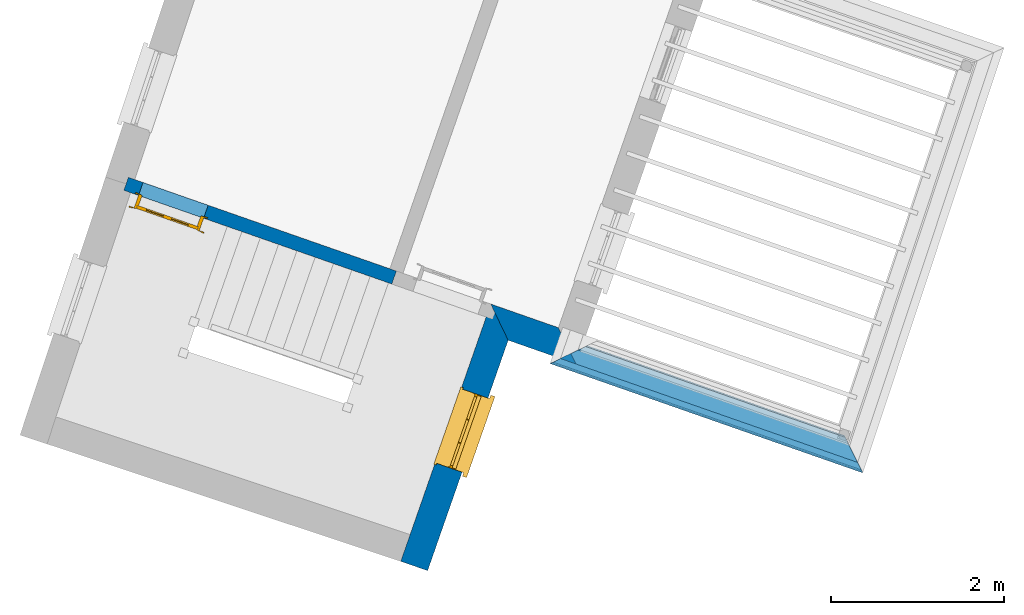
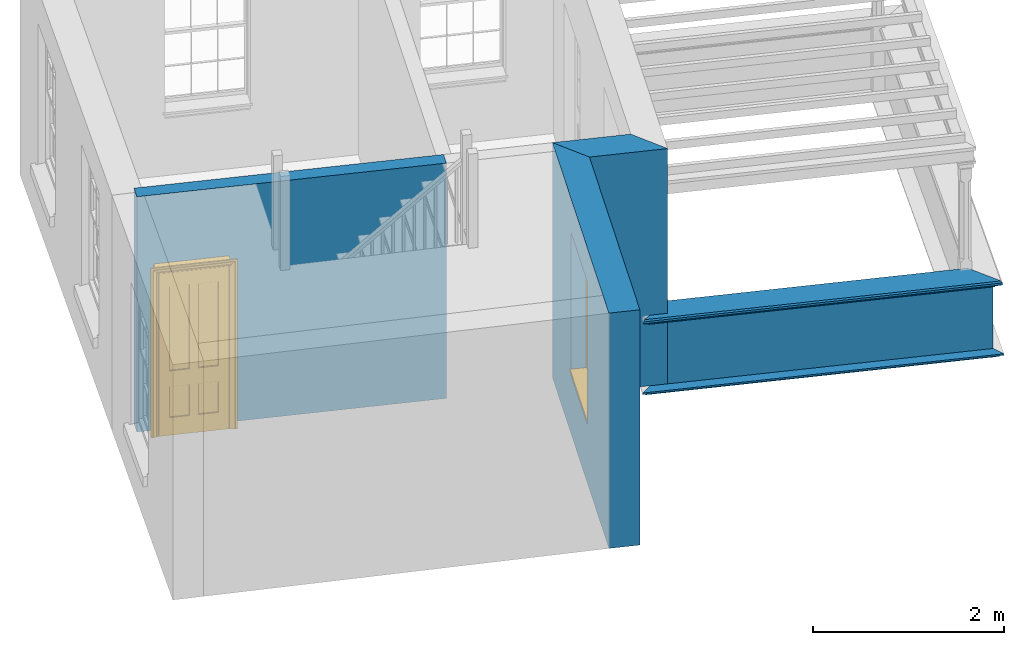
# One storey, part 2 of 6: 6 walls, 1 door, 1 window, 2 openings.
"""IFC4 building model written with IfcOpenShell, lengths in metres."""

from ifc_helpers import new_model, si_unit, frame, origin, origin_with_axes, place, context, subcontext, project, spatial, polyline, outline, extrude, clip, halfspace, faceted_brep, source, transform, mapped, material, layer, layer_set, layer_usage, material_profile, profile_set, profile_usage, type_object, type_shapes, element, fill, save


model = new_model("IFC4")

# Units and contexts
model_context = context("Model", 3, world=origin_with_axes())
body_context = subcontext(model_context, "Body", "Model", "MODEL_VIEW")
ifc_project = project(units=[si_unit("PLANEANGLEUNIT", "RADIAN"), si_unit("MASSUNIT", "GRAM", prefix="KILO"), si_unit("FORCEUNIT", "NEWTON", prefix="KILO"), si_unit("LENGTHUNIT", "METRE"), si_unit("AREAUNIT", "SQUARE_METRE"), si_unit("VOLUMEUNIT", "CUBIC_METRE")], contexts=[model_context, model_context])

# Sites, building, storey
site_1_placement = place(None, origin_with_axes())
site_1 = spatial("IfcSite", under=ifc_project, at=site_1_placement, Name="Tamar")
site_2_placement = place(site_1_placement, origin_with_axes())
site_2 = spatial("IfcSite", under=site_1, at=site_2_placement, Name="Site plot-15", CompositionType="ELEMENT")
building_placement = place(None, origin_with_axes())
building = spatial("IfcBuilding", under=site_2, at=building_placement, Name="Building plot-15", CompositionType="ELEMENT")
storey_placement = place(None, frame((0.0, 0.0, 29.95), z_axis=(0.0, 0.0, 1.0), x_axis=(1.0, 0.0, 0.0)))
storey = spatial("IfcBuildingStorey", under=building, at=storey_placement, Name="plot-15 1", CompositionType="ELEMENT", Elevation=29.95)

# Wall, opening, window
ifc_material_1 = material(Name="Masonry")
ifc_layer_1 = layer(ifc_material_1, 0.33, ventilated=False)
ifc_layer_set_1 = layer_set([ifc_layer_1], Name="exterior_0.08_0.25")
ifc_layer_usage_1 = layer_usage(ifc_layer_set_1, "AXIS2", "POSITIVE", -0.25)
wall_type_1 = type_object("IfcWallType", Name="exterior_0.08_0.25", PredefinedType="SOLIDWALL", material=ifc_layer_set_1)
wall_1_placement = place(storey_placement, frame((260.575215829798, 302.577917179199, 0.0), z_axis=(0.0, 0.0, 1.0), x_axis=(0.330001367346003, 0.943980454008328, 0.0)))
wall_1 = element("IfcWall", 1, at=wall_1_placement, inside=storey, type_object=wall_type_1, material=ifc_layer_usage_1, Name="exterior", context=body_context, shape_type="SweptSolid", body=[
    extrude(outline(polyline([(-0.250000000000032, 0.0800000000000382), (-0.250000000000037, -0.250000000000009), (2.58002127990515, -0.250000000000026), (2.91002127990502, 0.0800000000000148), (-0.250000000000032, 0.0800000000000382)])), origin_with_axes(), (0.0, 0.0, 1.0), 3.0),
])
opening_1_placement = place(wall_1_placement, frame((0.96001063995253, 0.0, 0.75)))
opening_1 = element("IfcOpeningElement", 2, at=opening_1_placement, cuts=wall_1, Name="My Opening", ObjectType="Opening", context=body_context, shape_type="SweptSolid", body=[
    extrude(outline(polyline([(0.0, -0.270000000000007), (0.909999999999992, -0.270000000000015), (0.909999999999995, 1.10000000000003), (2.88657986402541e-15, 1.10000000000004), (0.0, -0.270000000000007)])), origin_with_axes(), (0.0, 0.0, 1.0), 1.82),
])
window_type = type_object("IfcWindowType", Name="sash_big", PartitioningType="DOUBLE_PANEL_HORIZONTAL", PredefinedType="NOTDEFINED")
shared_shape_1 = source(origin(), body_context, "Body", "Brep", [
    faceted_brep([(0.033125, 0.145, 0.975209), (0.01, 0.145, 0.975209), (0.033125, 0.145, 1.376042), (0.876875, 0.145, 0.975209), (0.876875, 0.145, 1.376042), (0.9, 0.145, 0.975209), (0.876875, 0.145, 1.386042), (0.876875, 0.145, 1.786875), (0.9, 0.145, 1.81), (0.033125, 0.145, 1.786875), (0.033125, 0.145, 1.386042), (0.01, 0.145, 1.81), (0.876875, 0.115, 1.376042), (0.876875, 0.115, 0.975209), (0.9, 0.115, 0.937083), (0.033125, 0.115, 1.786875), (0.01, 0.115, 1.81), (0.033125, 0.115, 1.386042), (0.01, 0.115, 0.937083), (0.033125, 0.115, 0.975209), (0.033125, 0.115, 1.376042), (0.876875, 0.115, 1.786875), (0.876875, 0.115, 1.386042), (0.9, 0.115, 1.81), (0.033125, 0.145, 0.937083), (0.01, 0.145, 0.937083), (0.033125, 0.145, 0.53625), (0.876875, 0.145, 0.937083), (0.876875, 0.145, 0.53625), (0.9, 0.145, 0.937083), (0.876875, 0.145, 0.52625), (0.876875, 0.145, 0.125417), (0.9, 0.145, 0.077167), (0.033125, 0.145, 0.125417), (0.033125, 0.145, 0.52625), (0.01, 0.145, 0.077167), (-0.0425, 0.0, 0.01), (-0.0425, -0.05, 0.001667), (0.0, 0.0, 0.01), (0.9525, 0.0, 0.01), (0.91, 0.0, 0.01), (0.9525, -0.05, 0.001667), (-0.02, 0.33, 0.077167), (0.0, 0.33, 0.077167), (-0.02, 0.36, 0.077167), (0.0, 0.19, 0.077167), (0.01, 0.19, 0.077167), (0.91, 0.19, 0.077167), (0.91, 0.33, 0.077167), (0.9, 0.19, 0.077167), (0.93, 0.33, 0.077167), (0.93, 0.36, 0.077167), (0.01, 0.175, 0.975209), (0.9, 0.175, 0.975209), (0.876875, 0.175, 0.125417), (0.876875, 0.175, 0.52625), (0.9, 0.175, 0.077167), (0.876875, 0.175, 0.53625), (0.876875, 0.175, 0.937083), (0.033125, 0.175, 0.125417), (0.01, 0.175, 0.077167), (0.033125, 0.175, 0.52625), (0.033125, 0.175, 0.937083), (0.033125, 0.175, 0.53625), (-0.02, 0.33, 0.052167), (-0.02, 0.36, 0.052167), (0.93, 0.36, 0.052167), (0.93, 0.33, 0.052167), (0.91, 0.33, 0.052167), (0.0, 0.33, 0.052167), (0.91, 0.1, 0.026667), (0.0, 0.1, 0.026667), (-0.0425, -0.05, -0.123333), (0.9525, -0.05, -0.123333), (-0.0425, 0.0, -0.123333), (0.9525, 0.0, -0.123333), (0.01, 0.19, 1.81), (0.9, 0.19, 1.81), (0.0, 0.19, 1.82), (0.91, 0.19, 1.82), (0.01, 0.1, 0.077167), (0.9, 0.1, 0.077167), (0.592292, 0.145, 0.125417), (0.592292, 0.175, 0.125417), (0.317708, 0.175, 0.125417), (0.317708, 0.145, 0.125417), (0.592292, 0.145, 0.53625), (0.317708, 0.145, 0.53625), (0.317708, 0.145, 0.52625), (0.592292, 0.145, 0.52625), (0.592292, 0.175, 0.53625), (0.317708, 0.175, 0.53625), (0.592292, 0.115, 1.386042), (0.592292, 0.145, 1.386042), (0.317708, 0.145, 1.386042), (0.317708, 0.115, 1.386042), (0.317708, 0.115, 1.376042), (0.592292, 0.115, 1.376042), (0.317708, 0.145, 1.376042), (0.592292, 0.145, 1.376042), (0.602292, 0.115, 1.376042), (0.592292, 0.115, 0.975209), (0.602292, 0.115, 0.975209), (0.602292, 0.145, 0.975209), (0.592292, 0.145, 0.975209), (0.602292, 0.145, 1.376042), (0.602292, 0.175, 0.53625), (0.602292, 0.145, 0.53625), (0.317708, 0.175, 0.52625), (0.307708, 0.175, 0.125417), (0.307708, 0.175, 0.52625), (0.602292, 0.175, 0.52625), (0.602292, 0.175, 0.125417), (0.592292, 0.175, 0.52625), (0.307708, 0.175, 0.53625), (0.317708, 0.175, 0.937083), (0.307708, 0.175, 0.937083), (0.602292, 0.175, 0.937083), (0.592292, 0.175, 0.937083), (0.307708, 0.145, 0.52625), (0.307708, 0.145, 0.125417), (0.307708, 0.145, 0.53625), (0.307708, 0.145, 0.937083), (0.592292, 0.145, 0.937083), (0.317708, 0.145, 0.937083), (0.602292, 0.145, 0.937083), (0.602292, 0.145, 0.52625), (0.602292, 0.145, 0.125417), (0.307708, 0.115, 1.386042), (0.307708, 0.115, 1.376042), (0.307708, 0.115, 0.975209), (0.317708, 0.115, 0.975209), (0.317708, 0.115, 1.786875), (0.307708, 0.115, 1.786875), (0.602292, 0.115, 1.786875), (0.592292, 0.115, 1.786875), (0.602292, 0.115, 1.386042), (0.602292, 0.145, 1.386042), (0.307708, 0.145, 1.386042), (0.307708, 0.145, 1.786875), (0.317708, 0.145, 1.786875), (0.592292, 0.145, 1.786875), (0.602292, 0.145, 1.786875), (0.307708, 0.145, 1.376042), (0.317708, 0.145, 0.975209), (0.307708, 0.145, 0.975209), (0.91, 0.1, 1.82), (0.9, 0.1, 1.81), (0.01, 0.1, 1.81), (0.0, 0.1, 1.82), (0.91, 0.0, 0.0), (0.0, 0.0, 0.0), (0.91, 0.33, 0.0), (0.0, 0.33, 0.0)], [[[0, 1, 2]], [[3, 4, 5]], [[6, 7, 8]], [[9, 10, 11]], [[12, 13, 14]], [[15, 16, 17]], [[18, 19, 20]], [[21, 22, 23]], [[24, 25, 26]], [[27, 28, 29]], [[30, 31, 32]], [[33, 34, 35]], [[14, 27, 29]], [[25, 24, 18]], [[36, 37, 38]], [[39, 40, 41]], [[42, 43, 44]], [[45, 46, 43]], [[47, 48, 49]], [[50, 51, 48]], [[1, 0, 52]], [[5, 53, 3]], [[54, 55, 56]], [[57, 58, 53]], [[59, 60, 61]], [[62, 63, 52]], [[48, 43, 46, 49]], [[51, 44, 43, 48]], [[64, 42, 44, 65]], [[65, 44, 51, 66]], [[66, 51, 50, 67]], [[65, 66, 68, 69]], [[60, 56, 49, 46]], [[70, 71, 38, 40]], [[37, 41, 40, 38]], [[37, 72, 73, 41]], [[74, 75, 73, 72]], [[8, 11, 76, 77]], [[76, 78, 79, 77]], [[32, 35, 80, 81]], [[81, 80, 71, 70]], [[82, 83, 84, 85]], [[86, 87, 88, 89]], [[86, 90, 91, 87]], [[92, 93, 94, 95]], [[92, 95, 96, 97]], [[96, 98, 99, 97]], [[100, 97, 101, 102]], [[103, 104, 99, 105]], [[97, 99, 104, 101]], [[102, 103, 105, 100]], [[28, 57, 106, 107]], [[108, 84, 109, 110]], [[111, 112, 83, 113]], [[114, 110, 61, 63]], [[90, 113, 108, 91]], [[115, 91, 114, 116]], [[117, 106, 90, 118]], [[111, 106, 57, 55]], [[119, 110, 109, 120]], [[34, 61, 110, 119]], [[89, 113, 83, 82]], [[88, 108, 113, 89]], [[85, 84, 108, 88]], [[121, 114, 63, 26]], [[122, 116, 114, 121]], [[123, 118, 90, 86]], [[87, 91, 115, 124]], [[107, 106, 117, 125]], [[126, 111, 55, 30]], [[127, 112, 111, 126]], [[126, 30, 28, 107]], [[88, 119, 120, 85]], [[126, 89, 82, 127]], [[125, 123, 86, 107]], [[121, 26, 34, 119]], [[124, 122, 121, 87]], [[128, 17, 20, 129]], [[96, 129, 130, 131]], [[132, 133, 128, 95]], [[134, 135, 92, 136]], [[100, 12, 22, 136]], [[137, 6, 4, 105]], [[94, 138, 139, 140]], [[137, 93, 141, 142]], [[99, 98, 94, 93]], [[143, 2, 10, 138]], [[144, 145, 143, 98]], [[129, 143, 145, 130]], [[20, 2, 143, 129]], [[131, 144, 98, 96]], [[128, 138, 10, 17]], [[133, 139, 138, 128]], [[135, 141, 93, 92]], [[95, 94, 140, 132]], [[22, 6, 137, 136]], [[136, 137, 142, 134]], [[100, 105, 4, 12]], [[107, 86, 89, 126]], [[106, 111, 113, 90]], [[91, 108, 110, 114]], [[87, 121, 119, 88]], [[97, 100, 136, 92]], [[129, 96, 95, 128]], [[98, 143, 138, 94]], [[105, 99, 93, 137]], [[131, 101, 104, 144]], [[124, 115, 118, 123]], [[132, 140, 141, 135]], [[120, 109, 59, 33]], [[15, 9, 139, 133]], [[134, 142, 7, 21]], [[31, 54, 112, 127]], [[36, 74, 72, 37]], [[39, 41, 73, 75]], [[18, 14, 101, 131]], [[23, 16, 132, 135]], [[83, 56, 60, 84]], [[52, 53, 118, 115]], [[53, 52, 144, 104]], [[11, 8, 141, 140]], [[14, 18, 124, 123]], [[2, 1, 11, 10]], [[8, 5, 4, 6]], [[57, 53, 56, 55]], [[60, 52, 63, 61]], [[26, 25, 35, 34]], [[32, 29, 28, 30]], [[14, 23, 22, 12]], [[18, 20, 17, 16]], [[19, 0, 2, 20]], [[17, 10, 9, 15]], [[12, 4, 3, 13]], [[21, 7, 6, 22]], [[27, 58, 57, 28]], [[30, 55, 54, 31]], [[33, 59, 61, 34]], [[26, 63, 62, 24]], [[5, 8, 77, 53]], [[76, 11, 1, 52]], [[46, 45, 78, 76]], [[49, 77, 79, 47]], [[70, 146, 147, 81]], [[71, 80, 148, 149]], [[19, 130, 145, 0]], [[102, 13, 3, 103]], [[116, 122, 24, 62]], [[29, 32, 81, 14]], [[80, 35, 25, 18]], [[60, 46, 76, 52]], [[77, 49, 56, 53]], [[23, 14, 81, 147]], [[16, 148, 80, 18]], [[35, 85, 120]], [[120, 33, 35]], [[127, 82, 32]], [[32, 31, 127]], [[32, 82, 85, 35]], [[102, 101, 14]], [[14, 13, 102]], [[18, 131, 130]], [[130, 19, 18]], [[134, 21, 23]], [[23, 135, 134]], [[16, 15, 133]], [[133, 132, 16]], [[11, 140, 139]], [[139, 9, 11]], [[142, 141, 8]], [[8, 7, 142]], [[23, 147, 148, 16]], [[146, 149, 148, 147]], [[52, 115, 116]], [[116, 62, 52]], [[118, 53, 117]], [[58, 117, 53]], [[27, 125, 117, 58]], [[56, 83, 112]], [[112, 54, 56]], [[109, 84, 60]], [[60, 59, 109]], [[125, 27, 14]], [[14, 123, 125]], [[122, 124, 18]], [[18, 24, 122]], [[145, 144, 52]], [[52, 0, 145]], [[103, 3, 53]], [[53, 104, 103]], [[79, 78, 149, 146]], [[78, 45, 71, 149]], [[146, 70, 47, 79]], [[150, 75, 74, 151]], [[68, 66, 67]], [[48, 68, 67, 50]], [[69, 64, 65]], [[42, 64, 69, 43]], [[69, 68, 152, 153]], [[70, 68, 48, 47]], [[150, 152, 68, 70]], [[43, 69, 71, 45]], [[69, 153, 151, 71]], [[152, 150, 151, 153]], [[38, 151, 74, 36]], [[71, 151, 38]], [[39, 75, 150, 40]], [[40, 150, 70]]]),
])
type_shapes(window_type, [shared_shape_1])
window_placement = place(storey_placement, frame((261.146895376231, 303.395048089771, 0.75), z_axis=(0.0, 0.0, 1.0), x_axis=(0.300301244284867, 0.859022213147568, 0.0)))
window = element("IfcWindow", 3, at=window_placement, inside=storey, type_object=window_type, Name="circulation outside window", OverallHeight=1.82, OverallWidth=0.91, context=body_context, shape_type="MappedRepresentation", body=[
    mapped(shared_shape_1, transform((0.0, 0.0, 0.0), scale=1.0)),
])
fill(opening_1, window)

# Wall
wall_2_placement = place(storey_placement, frame((261.509126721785, 305.249401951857, 0.0), z_axis=(0.0, 0.0, 1.0), x_axis=(0.943980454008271, -0.330001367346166, 0.0)))
element("IfcWall", 4, at=wall_2_placement, inside=storey, type_object=wall_type_1, material=ifc_layer_usage_1, Name="exterior", context=body_context, shape_type="SweptSolid", body=[
    extrude(outline(polyline([(-0.0800000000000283, 0.0799999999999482), (0.250000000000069, -0.249999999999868), (1.08191725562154, -0.249999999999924), (0.75191725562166, 0.0799999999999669), (-0.0800000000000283, 0.0799999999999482)])), origin_with_axes(), (0.0, 0.0, 1.0), 3.0),
])

# Wall, opening, door
ifc_material_2 = material(Name="Masonry")
ifc_layer_2 = layer(ifc_material_2, 0.16, ventilated=False)
ifc_layer_set_2 = layer_set([ifc_layer_2], Name="interior_0.08_0.08")
ifc_layer_usage_2 = layer_usage(ifc_layer_set_2, "AXIS2", "POSITIVE", -0.08)
wall_type_2 = type_object("IfcWallType", Name="interior_0.08_0.08", PredefinedType="SOLIDWALL", material=ifc_layer_set_2)
wall_3_placement = place(storey_placement, frame((260.340339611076, 305.657992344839, 0.0), z_axis=(0.0, 0.0, 1.0), x_axis=(-0.943980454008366, 0.330001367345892, 0.0)))
wall_3 = element("IfcWall", 5, at=wall_3_placement, inside=storey, type_object=wall_type_2, material=ifc_layer_usage_2, Name="interior", context=body_context, shape_type="SweptSolid", body=[
    extrude(outline(polyline([(6.08859912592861e-16, 0.0800000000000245), (-5.99062738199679e-16, -0.0800000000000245), (3.29168025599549, -0.0800000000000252), (3.29168025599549, 0.0800000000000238), (6.08859912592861e-16, 0.0800000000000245)])), origin_with_axes(), (0.0, 0.0, 1.0), 3.0),
])
opening_2_placement = place(wall_3_placement, frame((2.31168025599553, 0.0, 0.0199999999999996)))
opening_2 = element("IfcOpeningElement", 6, at=opening_2_placement, cuts=wall_3, Name="My Opening", ObjectType="Opening", context=body_context, shape_type="SweptSolid", body=[
    extrude(outline(polyline([(0.0, -0.100000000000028), (0.799999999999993, -0.100000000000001), (0.800000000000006, 1.10000000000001), (1.46549439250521e-14, 1.09999999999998), (0.0, -0.100000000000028)])), origin_with_axes(), (0.0, 0.0, 1.0), 2.1),
])
door_type = type_object("IfcDoorType", Name="door_inside", OperationType="SINGLE_SWING_LEFT", PredefinedType="NOTDEFINED")
shared_shape_2 = source(origin(), body_context, "Body", "Brep", [
    faceted_brep([(0.773, 0.33, 1.895), (0.66, 0.33, 1.895), (0.66, 0.33, 2.073), (0.773, 0.33, 2.073), (0.773, 0.33, 0.82), (0.66, 0.33, 0.82), (0.45, 0.33, 1.895), (0.45, 0.33, 2.073), (0.773, 0.33, 0.62), (0.66, 0.33, 0.62), (0.66, 0.315, 0.82), (0.66, 0.315, 1.895), (0.45, 0.315, 1.895), (0.35, 0.33, 1.895), (0.35, 0.33, 2.073), (0.773, 0.33, 0.225), (0.66, 0.33, 0.225), (0.45, 0.33, 0.62), (0.45, 0.33, 0.82), (0.45, 0.315, 0.82), (0.35, 0.33, 0.82), (0.14, 0.33, 2.073), (0.14, 0.33, 1.895), (0.773, 0.33, 0.0), (0.66, 0.33, 0.0), (0.66, 0.315, 0.225), (0.66, 0.315, 0.62), (0.45, 0.315, 0.62), (0.35, 0.33, 0.62), (0.35, 0.315, 0.82), (0.35, 0.315, 1.895), (0.14, 0.315, 1.895), (0.027, 0.33, 2.073), (0.027, 0.33, 1.895), (0.773, 0.292, 0.0), (0.66, 0.292, 0.0), (0.45, 0.33, 0.0), (0.45, 0.33, 0.225), (0.45, 0.315, 0.225), (0.35, 0.33, 0.225), (0.14, 0.33, 0.82), (0.14, 0.33, 0.62), (0.14, 0.315, 0.82), (0.027, 0.33, 0.82), (0.773, 0.292, 0.225), (0.66, 0.292, 0.225), (0.45, 0.292, 0.0), (0.35, 0.33, 0.0), (0.35, 0.315, 0.225), (0.35, 0.315, 0.62), (0.14, 0.315, 0.62), (0.027, 0.33, 0.62), (0.773, 0.292, 0.62), (0.66, 0.292, 0.62), (0.45, 0.292, 0.225), (0.35, 0.292, 0.0), (0.14, 0.33, 0.225), (0.14, 0.33, 0.0), (0.14, 0.315, 0.225), (0.027, 0.33, 0.225), (0.773, 0.292, 0.82), (0.66, 0.292, 0.82), (0.66, 0.307, 0.62), (0.66, 0.307, 0.225), (0.45, 0.307, 0.225), (0.35, 0.292, 0.225), (0.14, 0.292, 0.0), (0.027, 0.33, 0.0), (0.773, 0.292, 1.895), (0.66, 0.292, 1.895), (0.45, 0.292, 0.62), (0.45, 0.292, 0.82), (0.45, 0.307, 0.62), (0.35, 0.292, 0.62), (0.14, 0.292, 0.225), (0.027, 0.292, 0.0), (0.773, 0.292, 2.073), (0.66, 0.292, 2.073), (0.66, 0.307, 1.895), (0.66, 0.307, 0.82), (0.45, 0.307, 0.82), (0.35, 0.292, 0.82), (0.35, 0.307, 0.62), (0.35, 0.307, 0.225), (0.14, 0.307, 0.225), (0.027, 0.292, 0.225), (0.45, 0.292, 1.895), (0.45, 0.292, 2.073), (0.45, 0.307, 1.895), (0.35, 0.292, 1.895), (0.14, 0.292, 0.82), (0.14, 0.292, 0.62), (0.14, 0.307, 0.62), (0.027, 0.292, 0.62), (0.35, 0.292, 2.073), (0.35, 0.307, 1.895), (0.35, 0.307, 0.82), (0.14, 0.307, 0.82), (0.027, 0.292, 0.82), (0.14, 0.292, 2.073), (0.14, 0.292, 1.895), (0.14, 0.307, 1.895), (0.027, 0.292, 1.895), (0.027, 0.292, 2.073), (0.02, 0.335, 0.0), (0.005, 0.34, 0.0), (0.005, 0.34, 2.095), (0.02, 0.335, 2.08), (0.02, 0.33, 0.0), (0.0, 0.335, 0.0), (0.0, 0.335, 2.1), (0.795, 0.34, 2.095), (0.78, 0.335, 2.08), (0.02, 0.33, 2.08), (0.0, 0.33, 0.0), (-0.032, 0.345, 0.0), (-0.032, 0.345, 2.132), (0.8, 0.335, 2.1), (0.795, 0.34, 0.0), (0.78, 0.335, 0.0), (0.78, 0.33, 2.08), (0.04, 0.29, 0.0), (0.025, 0.29, 0.0), (0.025, 0.29, 2.075), (0.04, 0.29, 2.06), (-0.04, 0.34, 0.0), (-0.04, 0.34, 2.14), (0.832, 0.345, 2.132), (0.8, 0.335, 0.0), (0.78, 0.33, 0.0), (0.8, 0.33, 0.0), (0.86, 0.33, 0.0), (0.86, 0.33, 2.16), (0.8, 0.33, 2.1), (-0.06, 0.33, 2.16), (0.0, 0.33, 2.1), (-0.06, 0.33, 0.0), (-0.04, 0.345, 0.0), (-0.04, 0.345, 2.14), (0.84, 0.34, 2.14), (0.832, 0.345, 0.0), (0.84, 0.34, 0.0), (0.86, 0.345, 0.0), (0.86, 0.345, 2.16), (-0.06, 0.345, 2.16), (-0.06, 0.345, 0.0), (0.84, 0.345, 0.0), (0.84, 0.345, 2.14), (-0.025, 0.155, 0.0), (-0.025, 0.16, 0.0), (-0.025, 0.16, 2.125), (-0.025, 0.155, 2.125), (-0.017, 0.155, 0.0), (-0.017, 0.155, 2.117), (0.825, 0.16, 2.125), (0.825, 0.155, 2.125), (0.825, 0.155, 0.0), (0.845, 0.155, 0.0), (-0.045, 0.155, 2.145), (-0.045, 0.155, 0.0), (0.845, 0.155, 2.145), (0.015, 0.165, 0.0), (0.015, 0.165, 2.085), (0.817, 0.155, 2.117), (0.825, 0.16, 0.0), (0.845, 0.17, 0.0), (0.845, 0.17, 2.145), (-0.045, 0.17, 2.145), (-0.045, 0.17, 0.0), (0.02, 0.16, 0.0), (0.02, 0.16, 2.08), (0.785, 0.165, 2.085), (0.817, 0.155, 0.0), (0.8, 0.17, 0.0), (0.8, 0.17, 2.1), (0.0, 0.17, 2.1), (0.0, 0.17, 0.0), (0.035, 0.165, 0.0), (0.035, 0.165, 2.065), (0.78, 0.16, 2.08), (0.785, 0.165, 0.0), (0.775, 0.29, 2.075), (0.76, 0.29, 2.06), (0.035, 0.17, 2.065), (0.035, 0.17, 0.0), (0.765, 0.165, 2.065), (0.78, 0.16, 0.0), (0.765, 0.17, 0.0), (0.765, 0.17, 2.065), (0.765, 0.165, 0.0), (0.04, 0.17, 2.06), (0.04, 0.17, 0.0), (0.76, 0.17, 2.06), (0.76, 0.17, 0.0), (0.76, 0.29, 0.0), (0.775, 0.29, 0.0), (0.025, 0.33, 0.0), (0.025, 0.33, 2.075), (0.775, 0.33, 0.0), (0.775, 0.33, 2.075)], [[[0, 1, 2, 3]], [[1, 0, 4, 5]], [[1, 6, 7, 2]], [[8, 9, 5, 4]], [[1, 5, 10, 11]], [[6, 1, 11, 12]], [[6, 13, 14, 7]], [[15, 16, 9, 8]], [[9, 17, 18, 5]], [[5, 18, 19, 10]], [[10, 19, 12, 11]], [[18, 6, 12, 19]], [[18, 20, 13, 6]], [[21, 14, 13, 22]], [[23, 24, 16, 15]], [[9, 16, 25, 26]], [[17, 9, 26, 27]], [[17, 28, 20, 18]], [[13, 20, 29, 30]], [[22, 13, 30, 31]], [[32, 21, 22, 33]], [[34, 35, 24, 23]], [[24, 36, 37, 16]], [[16, 37, 38, 25]], [[25, 38, 27, 26]], [[37, 17, 27, 38]], [[37, 39, 28, 17]], [[40, 20, 28, 41]], [[20, 40, 42, 29]], [[31, 30, 29, 42]], [[40, 22, 31, 42]], [[33, 22, 40, 43]], [[35, 34, 44, 45]], [[35, 46, 36, 24]], [[36, 47, 39, 37]], [[28, 39, 48, 49]], [[41, 28, 49, 50]], [[43, 40, 41, 51]], [[45, 44, 52, 53]], [[46, 35, 45, 54]], [[46, 55, 47, 36]], [[56, 39, 47, 57]], [[39, 56, 58, 48]], [[50, 49, 48, 58]], [[56, 41, 50, 58]], [[51, 41, 56, 59]], [[53, 52, 60, 61]], [[45, 53, 62, 63]], [[54, 45, 63, 64]], [[55, 46, 54, 65]], [[55, 66, 57, 47]], [[59, 56, 57, 67]], [[61, 60, 68, 69]], [[70, 53, 61, 71]], [[53, 70, 72, 62]], [[72, 64, 63, 62]], [[70, 54, 64, 72]], [[65, 54, 70, 73]], [[65, 74, 66, 55]], [[67, 57, 66, 75]], [[69, 68, 76, 77]], [[61, 69, 78, 79]], [[71, 61, 79, 80]], [[73, 70, 71, 81]], [[65, 73, 82, 83]], [[74, 65, 83, 84]], [[74, 85, 75, 66]], [[86, 69, 77, 87]], [[69, 86, 88, 78]], [[88, 80, 79, 78]], [[86, 71, 80, 88]], [[81, 71, 86, 89]], [[73, 81, 90, 91]], [[73, 91, 92, 82]], [[83, 82, 92, 84]], [[91, 74, 84, 92]], [[91, 93, 85, 74]], [[89, 86, 87, 94]], [[81, 89, 95, 96]], [[90, 81, 96, 97]], [[90, 98, 93, 91]], [[94, 99, 100, 89]], [[89, 100, 101, 95]], [[101, 97, 96, 95]], [[100, 90, 97, 101]], [[100, 102, 98, 90]], [[99, 103, 102, 100]], [[32, 103, 99, 21]], [[102, 103, 32, 33]], [[98, 102, 33, 43]], [[21, 99, 94, 14]], [[94, 87, 7, 14]], [[7, 87, 77, 2]], [[76, 3, 2, 77]], [[43, 51, 93, 98]], [[51, 59, 85, 93]], [[67, 75, 85, 59]], [[34, 23, 15, 44]], [[44, 15, 8, 52]], [[52, 8, 4, 60]], [[0, 68, 60, 4]], [[0, 3, 76, 68]], [[104, 105, 106, 107]], [[104, 108, 109, 105]], [[105, 109, 110, 106]], [[107, 106, 111, 112]], [[107, 113, 108, 104]], [[114, 109, 108]], [[109, 115, 116, 110]], [[106, 110, 117, 111]], [[112, 111, 118, 119]], [[113, 107, 112, 120]], [[121, 122, 123, 124]], [[115, 109, 114, 125]], [[115, 125, 126, 116]], [[110, 116, 127, 117]], [[111, 117, 128, 118]], [[118, 128, 129, 119]], [[120, 112, 119, 129]], [[130, 129, 128]], [[130, 131, 132, 133]], [[133, 132, 134, 135]], [[135, 134, 136, 114]], [[136, 125, 114]], [[125, 137, 138, 126]], [[116, 126, 139, 127]], [[117, 127, 140, 128]], [[141, 130, 128, 140]], [[131, 130, 141]], [[131, 142, 143, 132]], [[132, 143, 144, 134]], [[134, 144, 145, 136]], [[137, 125, 136, 145]], [[143, 142, 146]], [[143, 146, 147]], [[137, 145, 144]], [[143, 147, 138]], [[138, 137, 144]], [[143, 138, 144]], [[126, 138, 147, 139]], [[127, 139, 141, 140]], [[142, 131, 141, 146]], [[139, 147, 146, 141]], [[148, 149, 150, 151]], [[149, 152, 153, 150]], [[151, 150, 154, 155]], [[155, 156, 157]], [[158, 159, 148]], [[158, 148, 151]], [[155, 157, 160]], [[158, 151, 155]], [[155, 160, 158]], [[152, 161, 162, 153]], [[150, 153, 163, 154]], [[155, 154, 164, 156]], [[156, 164, 165, 157]], [[157, 165, 166, 160]], [[160, 166, 167, 158]], [[158, 167, 168, 159]], [[161, 169, 170, 162]], [[153, 162, 171, 163]], [[154, 163, 172, 164]], [[165, 164, 173]], [[165, 173, 174, 166]], [[166, 174, 175, 167]], [[167, 175, 176, 168]], [[169, 177, 178, 170]], [[162, 170, 179, 171]], [[163, 171, 180, 172]], [[172, 180, 173, 164]], [[124, 123, 181, 182]], [[183, 178, 177, 184]], [[170, 178, 185, 179]], [[171, 179, 186, 180]], [[187, 173, 180]], [[185, 188, 187, 189]], [[188, 185, 178, 183]], [[179, 185, 189, 186]], [[189, 187, 180, 186]], [[190, 183, 184, 191]], [[192, 188, 183, 190]], [[191, 184, 122, 121]], [[124, 190, 191, 121]], [[193, 187, 188, 192]], [[182, 192, 190, 124]], [[184, 176, 122]], [[194, 195, 187, 193]], [[192, 182, 194, 193]], [[161, 176, 184]], [[114, 108, 122, 176]], [[173, 187, 195]], [[152, 149, 176, 161]], [[169, 161, 184, 177]], [[196, 122, 108]], [[176, 175, 135, 114]], [[173, 195, 129, 130]], [[176, 149, 168]], [[123, 122, 196, 197]], [[196, 108, 113, 197]], [[175, 174, 133, 135]], [[198, 129, 195]], [[133, 174, 173, 130]], [[159, 168, 149, 148]], [[181, 123, 197, 199]], [[197, 113, 120, 199]], [[199, 120, 129, 198]], [[195, 181, 199, 198]], [[195, 194, 182, 181]]]),
])
type_shapes(door_type, [shared_shape_2])
door_placement = place(storey_placement, frame((258.191158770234, 306.515248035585, 0.0199999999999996), z_axis=(0.0, 0.0, 1.0), x_axis=(-0.755184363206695, 0.264001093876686, 0.0)))
door = element("IfcDoor", 7, at=door_placement, inside=storey, type_object=door_type, Name="bedroom inside door", OverallHeight=2.1, OverallWidth=0.8, context=body_context, shape_type="MappedRepresentation", body=[
    mapped(shared_shape_2, transform((0.0, 0.0, 0.0), scale=1.0)),
])
fill(opening_2, door)

# Walls
ifc_material_profile_1 = material_profile(None, outline(polyline([(0.25, 0.0), (0.25, 0.795), (0.09, 0.795), (0.09, 0.02), (-0.08, 0.02), (-0.08, 0.0), (0.25, 0.0)])))
ifc_profile_set_1 = profile_set([ifc_material_profile_1])
ifc_profile_usage_1 = profile_usage(ifc_profile_set_1)
wall_type_3 = type_object("IfcWallType", Name="parapet_0", PredefinedType="PARAPET", material=ifc_profile_set_1)
wall_4_placement = place(storey_placement, frame((266.501178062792, 303.504255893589, 0.0), z_axis=(-0.943980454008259, 0.330001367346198, 0.0), x_axis=(-0.330001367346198, -0.943980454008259, 0.0)))
element("IfcWall", 8, at=wall_4_placement, inside=storey, type_object=wall_type_3, material=ifc_profile_usage_1, Name="parapet_0", context=body_context, shape_type="Clipping", body=[
    clip(clip(extrude(outline(polyline([(0.25, 0.0), (0.25, 0.795), (0.09, 0.795), (0.09, 0.02), (-0.08, 0.02), (-0.08, 0.0), (0.25, 0.0)])), origin_with_axes(), (0.0, 0.0, 1.0), 5.1463822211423), halfspace(frame((0.0, 0.0, 4.1463822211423), z_axis=(0.707106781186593, 0.0, -0.707106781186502), x_axis=(0.0, 1.0, 0.0)), True)), halfspace(frame((0.0, 0.0, 1.0), z_axis=(-0.712673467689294, 0.0, -0.70149592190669), x_axis=(0.0, 1.0, 0.0)), False)),
])
ifc_material_profile_2 = material_profile(None, outline(polyline([(0.265, 0.795), (0.268, 0.807), (0.274, 0.816), (0.283, 0.822), (0.295, 0.825), (0.295, 0.84), (0.305, 0.84), (0.317, 0.842), (0.326, 0.849), (0.333, 0.858), (0.335, 0.87), (0.333, 0.882), (0.326, 0.891), (0.317, 0.898), (0.305, 0.9), (0.035, 0.9), (0.023, 0.898), (0.014, 0.891), (0.007, 0.882), (0.005, 0.87), (0.007, 0.858), (0.014, 0.849), (0.023, 0.842), (0.035, 0.84), (0.045, 0.84), (0.045, 0.825), (0.057, 0.822), (0.066, 0.816), (0.072, 0.807), (0.075, 0.795), (0.265, 0.795)])))
ifc_profile_set_2 = profile_set([ifc_material_profile_2])
ifc_profile_usage_2 = profile_usage(ifc_profile_set_2)
wall_type_4 = type_object("IfcWallType", Name="parapet_1", PredefinedType="PARAPET", material=ifc_profile_set_2)
wall_5_placement = place(storey_placement, frame((266.501178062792, 303.504255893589, 0.0), z_axis=(-0.943980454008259, 0.330001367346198, 0.0), x_axis=(-0.330001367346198, -0.943980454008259, 0.0)))
element("IfcWall", 9, at=wall_5_placement, inside=storey, type_object=wall_type_4, material=ifc_profile_usage_2, Name="parapet_1", context=body_context, shape_type="Clipping", body=[
    clip(clip(extrude(outline(polyline([(0.265, 0.795), (0.268, 0.807), (0.274, 0.816), (0.283, 0.822), (0.295, 0.825), (0.295, 0.84), (0.305, 0.84), (0.317, 0.842), (0.326, 0.849), (0.333, 0.858), (0.335, 0.87), (0.333, 0.882), (0.326, 0.891), (0.317, 0.898), (0.305, 0.9), (0.035, 0.9), (0.023, 0.898), (0.014, 0.891), (0.007, 0.882), (0.005, 0.87), (0.007, 0.858), (0.014, 0.849), (0.023, 0.842), (0.035, 0.84), (0.045, 0.84), (0.045, 0.825), (0.057, 0.822), (0.066, 0.816), (0.072, 0.807), (0.075, 0.795), (0.265, 0.795)])), origin_with_axes(), (0.0, 0.0, 1.0), 5.1463822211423), halfspace(frame((0.0, 0.0, 4.1463822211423), z_axis=(0.707106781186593, 0.0, -0.707106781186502), x_axis=(0.0, 1.0, 0.0)), True)), halfspace(frame((0.0, 0.0, 1.0), z_axis=(-0.712673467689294, 0.0, -0.70149592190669), x_axis=(0.0, 1.0, 0.0)), False)),
])
ifc_material_profile_3 = material_profile(None, outline(polyline([(0.25, -0.1), (0.265, -0.1), (0.265, -0.085), (0.278, -0.084), (0.289, -0.081), (0.301, -0.074), (0.309, -0.065), (0.315, -0.055), (0.324, -0.044), (0.334, -0.038), (0.345, -0.035), (0.345, -0.015), (0.25, 0.0), (0.25, -0.1)])))
ifc_profile_set_3 = profile_set([ifc_material_profile_3])
ifc_profile_usage_3 = profile_usage(ifc_profile_set_3)
wall_type_5 = type_object("IfcWallType", Name="parapet_2", PredefinedType="PARAPET", material=ifc_profile_set_3)
wall_6_placement = place(storey_placement, frame((266.501178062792, 303.504255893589, 0.0), z_axis=(-0.943980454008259, 0.330001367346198, 0.0), x_axis=(-0.330001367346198, -0.943980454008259, 0.0)))
element("IfcWall", 10, at=wall_6_placement, inside=storey, type_object=wall_type_5, material=ifc_profile_usage_3, Name="parapet_2", context=body_context, shape_type="Clipping", body=[
    clip(clip(extrude(outline(polyline([(0.25, -0.1), (0.265, -0.1), (0.265, -0.085), (0.278, -0.084), (0.289, -0.081), (0.301, -0.074), (0.309, -0.065), (0.315, -0.055), (0.324, -0.044), (0.334, -0.038), (0.345, -0.035), (0.345, -0.015), (0.25, 0.0), (0.25, -0.1)])), origin_with_axes(), (0.0, 0.0, 1.0), 5.1463822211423), halfspace(frame((0.0, 0.0, 4.1463822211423), z_axis=(0.707106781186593, 0.0, -0.707106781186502), x_axis=(0.0, 1.0, 0.0)), True)), halfspace(frame((0.0, 0.0, 1.0), z_axis=(-0.712673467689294, 0.0, -0.70149592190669), x_axis=(0.0, 1.0, 0.0)), False)),
])

save(model, "model.ifc")
